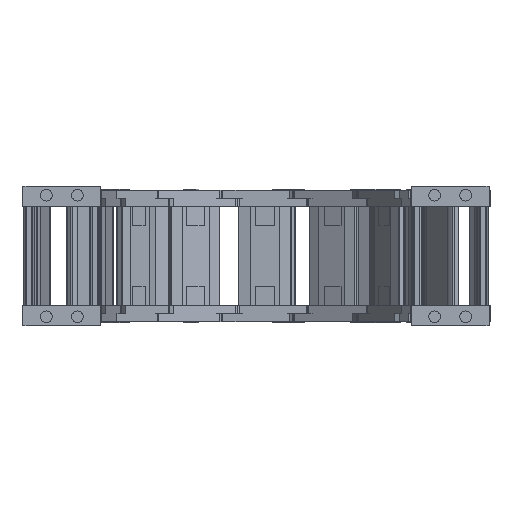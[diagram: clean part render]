
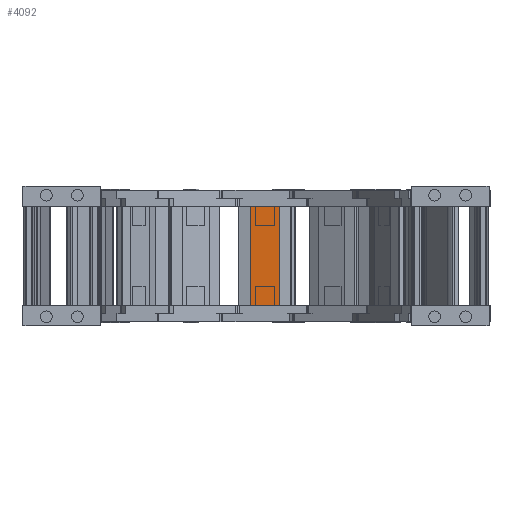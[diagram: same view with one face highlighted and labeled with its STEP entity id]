
A CAD part, left-side view. The second image highlights one B-rep face of the part: STEP entity #4092.
In plain terms, the highlighted planar face has unit normal (-0.999, 0.054, 0) as drawn and (0, -1, 0) by its records, which use the part's own axes.
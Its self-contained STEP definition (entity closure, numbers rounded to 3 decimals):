
#3646=DIRECTION('',(0.,0.,-1.));
#3647=VECTOR('',#3646,15.);
#3648=CARTESIAN_POINT('',(-13.5,0.,7.5));
#3649=LINE('',#3648,#3647);
#3733=DIRECTION('',(-1.,0.,0.));
#3734=VECTOR('',#3733,51.);
#3735=CARTESIAN_POINT('',(37.5,0.,-7.5));
#3736=LINE('',#3735,#3734);
#3740=DIRECTION('',(1.,0.,0.));
#3741=VECTOR('',#3740,51.);
#3742=CARTESIAN_POINT('',(-13.5,0.,7.5));
#3743=LINE('',#3742,#3741);
#3747=DIRECTION('',(0.,0.,-1.));
#3748=VECTOR('',#3747,15.);
#3749=CARTESIAN_POINT('',(37.5,0.,7.5));
#3750=LINE('',#3749,#3748);
#3865=CARTESIAN_POINT('',(37.5,0.,7.5));
#3866=CARTESIAN_POINT('',(37.5,0.,-7.5));
#3867=VERTEX_POINT('',#3865);
#3868=VERTEX_POINT('',#3866);
#3889=CARTESIAN_POINT('',(-13.5,0.,-7.5));
#3890=VERTEX_POINT('',#3889);
#3891=CARTESIAN_POINT('',(-13.5,0.,7.5));
#3892=VERTEX_POINT('',#3891);
#4079=CARTESIAN_POINT('',(6.,0.,0.));
#4080=DIRECTION('',(0.,1.,0.));
#4081=DIRECTION('',(1.,0.,0.));
#4082=AXIS2_PLACEMENT_3D('',#4079,#4080,#4081);
#4083=PLANE('',#4082);
#4084=ORIENTED_EDGE('',*,*,#4065,.T.);
#4085=ORIENTED_EDGE('',*,*,#3930,.F.);
#4087=ORIENTED_EDGE('',*,*,#4086,.T.);
#4089=ORIENTED_EDGE('',*,*,#4088,.T.);
#4090=EDGE_LOOP('',(#4084,#4085,#4087,#4089));
#4091=FACE_OUTER_BOUND('',#4090,.F.);
#4092=ADVANCED_FACE('',(#4091),#4083,.F.);
#3930=EDGE_CURVE('',#3892,#3890,#3649,.T.);
#4065=EDGE_CURVE('',#3868,#3890,#3736,.T.);
#4086=EDGE_CURVE('',#3892,#3867,#3743,.T.);
#4088=EDGE_CURVE('',#3867,#3868,#3750,.T.);
